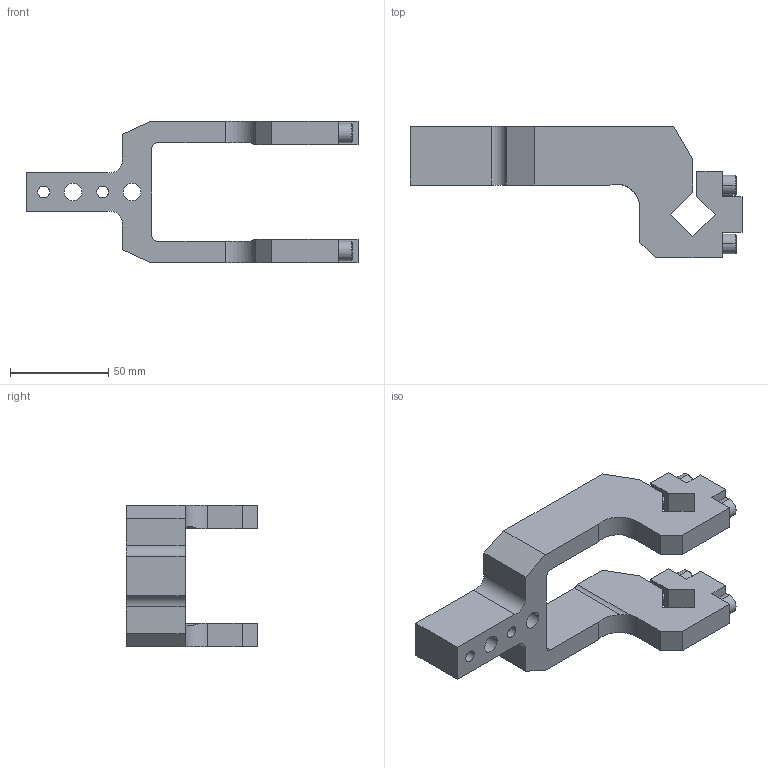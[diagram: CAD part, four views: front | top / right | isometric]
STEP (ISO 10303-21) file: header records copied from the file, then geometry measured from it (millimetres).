
FILE_DESCRIPTION((''),'2;1');
FILE_NAME('S:\Matthew\Step Files\XM Clamp Arms\XJ50-CA-01.stp','2006-06-28T08:08:59',('Matthew'),(''),'Autodesk Inventor 8','Autodesk Inventor 8','');
FILE_SCHEMA(('AUTOMOTIVE_DESIGN { 1 0 10303 214 1 1 1 1 }'));
Length unit declared in the file: millimetre
Products named in the file (1): XJ50-CA-01
Bounding box: 169 x 67 x 72 mm (x, y, z)
Volume: 142094.6 mm3; surface area: 41472.3 mm2
Topology: 1 solids, 3 shells, 144 faces, 368 edges, 236 vertices
Faces by surface type: plane 86, bspline 35, cylinder 15, cone 8
Entity records: 4750 total; most frequent: CARTESIAN_POINT 1322, ORIENTED_EDGE 720, DIRECTION 666, EDGE_CURVE 360, VECTOR 270, LINE 270, VERTEX_POINT 236, AXIS2_PLACEMENT_3D 198
